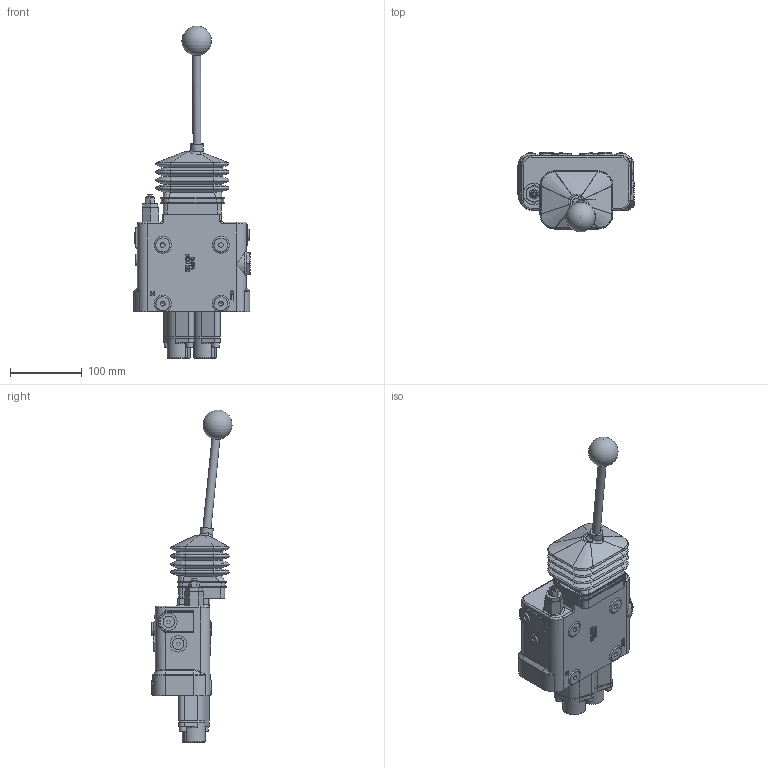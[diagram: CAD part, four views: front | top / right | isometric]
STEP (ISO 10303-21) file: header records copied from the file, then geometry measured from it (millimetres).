
FILE_DESCRIPTION((''),'2;1');
FILE_NAME('C:\Vault\Workspace\z_ShellModels\LV_LS30_RD25_RD41\LVR1RG5AB4_Shell.stp','2012-03-19T10:29:34',('PetersW'),(''),'Autodesk Inventor 2012','Autodesk Inventor 2012','');
FILE_SCHEMA(('AUTOMOTIVE_DESIGN { 1 0 10303 214 1 1 1 1 }'));
Length unit declared in the file: inch
Products named in the file (1): Part3
Bounding box: 161.52 x 111.44 x 462.2 mm (x, y, z)
Volume: 1953254.3 mm3; surface area: 234013.1 mm2
Topology: 1 solids, 29 shells, 1398 faces, 3310 edges, 2062 vertices
Faces by surface type: plane 641, cylinder 300, bspline 213, cone 127, torus 112, sphere 5
Full cylindrical faces by diameter (mm): 3.175 x2, 4.978 x10, 6.096 x1, 6.35 x4, 6.401 x6, 6.528 x1, 6.731 x12, 6.909 x3, 7.925 x3, 9.525 x4, 11.112 x1, 11.125 x1, 12.7 x3, 15.875 x3, 15.878 x6, 16.764 x2, 17.45 x2, 17.475 x1, 17.551 x4, 19.05 x3, 20.32 x4, 20.472 x2, 21.438 x2, 23.012 x1, 23.266 x2, 23.952 x1, 27.28 x4, 30.175 x7, 34.138 x2, 41.275 x1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
Entity records: 53057 total; most frequent: CARTESIAN_POINT 21996, ORIENTED_EDGE 6132, DIRECTION 5737, EDGE_CURVE 3066, AXIS2_PLACEMENT_3D 2129, VERTEX_POINT 1988, EDGE_LOOP 1678, VECTOR 1479
